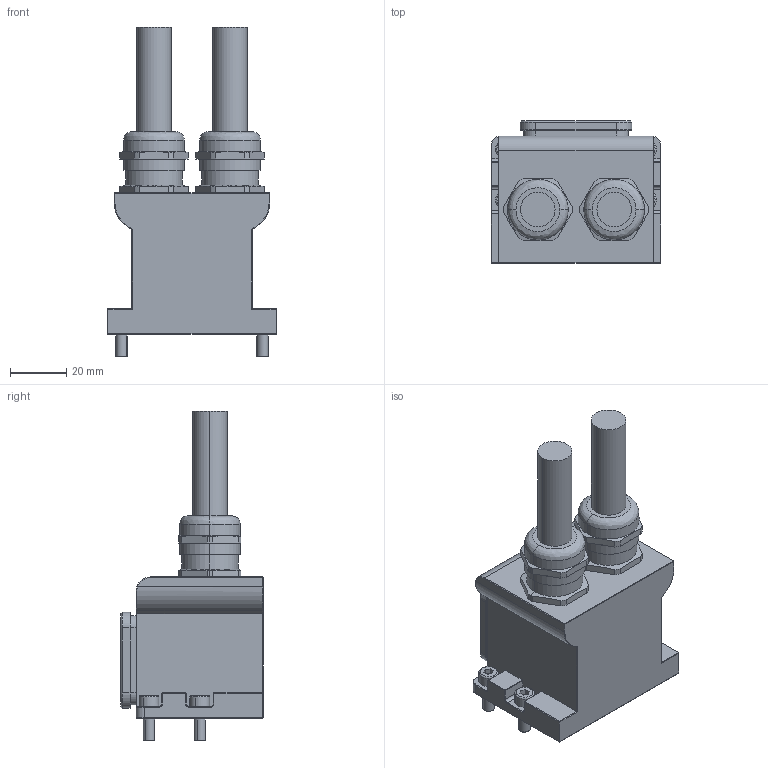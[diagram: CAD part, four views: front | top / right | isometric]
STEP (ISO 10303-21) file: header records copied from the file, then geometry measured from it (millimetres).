
FILE_DESCRIPTION (( 'STEP AP203' ), '1' );
FILE_NAME ('伺服总成模块R(直出线).STEP', '2025-02-20T00:39:31', ( 'Windows 用户' ), ( 'Organization' ), 'SwSTEP 2.0', 'SolidWorks 2018', '' );
FILE_SCHEMA (( 'CONFIG_CONTROL_DESIGN' ));
Length unit declared in the file: millimetre
Products named in the file (1): 伺服总成模块R(直出线)
Bounding box: 60 x 50.5 x 116.7 mm (x, y, z)
Volume: 136855.9 mm3; surface area: 27500.3 mm2
Topology: 1 solids, 1 shells, 1142 faces, 2525 edges, 1460 vertices
Faces by surface type: plane 753, cylinder 217, cone 150, sphere 8, torus 8, bspline 6
Entity records: 31136 total; most frequent: CARTESIAN_POINT 6808, ORIENTED_EDGE 5026, DIRECTION 5007, EDGE_CURVE 2513, AXIS2_PLACEMENT_3D 1767, VECTOR 1473, LINE 1473, VERTEX_POINT 1460
